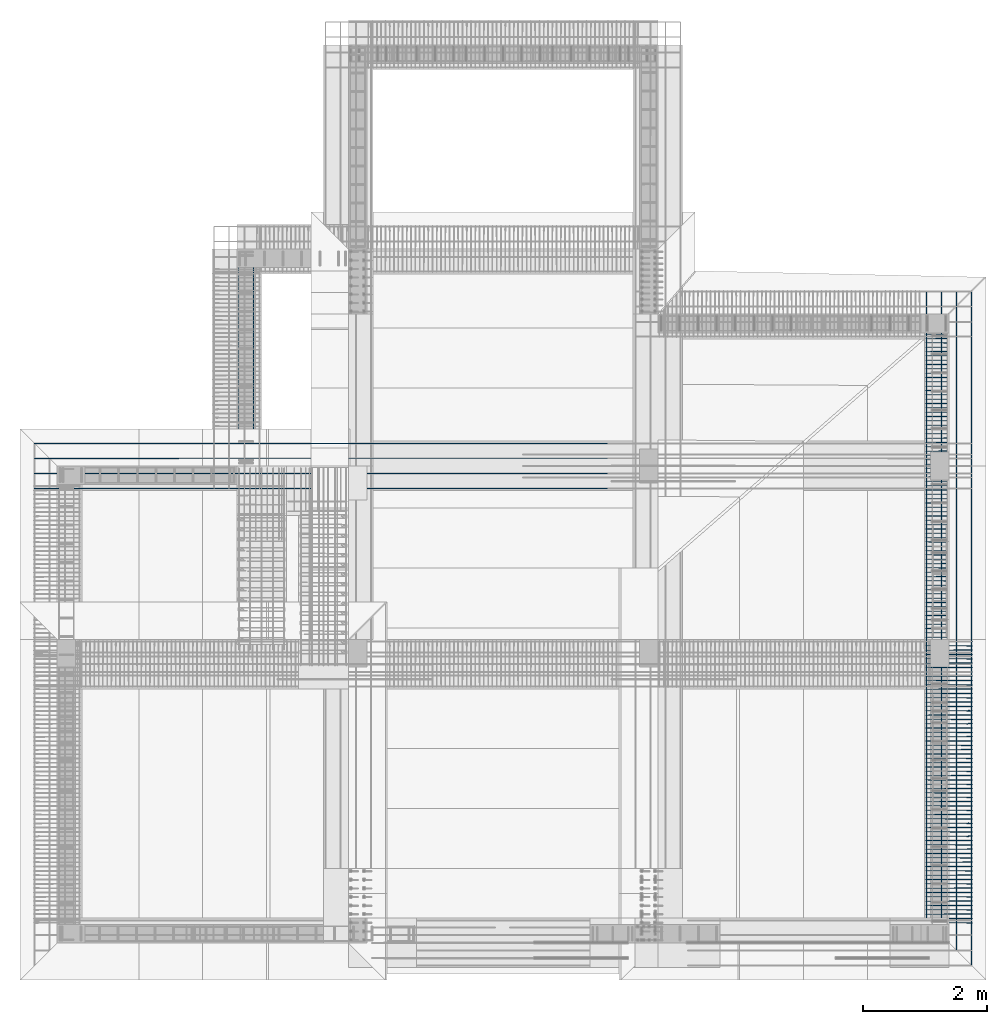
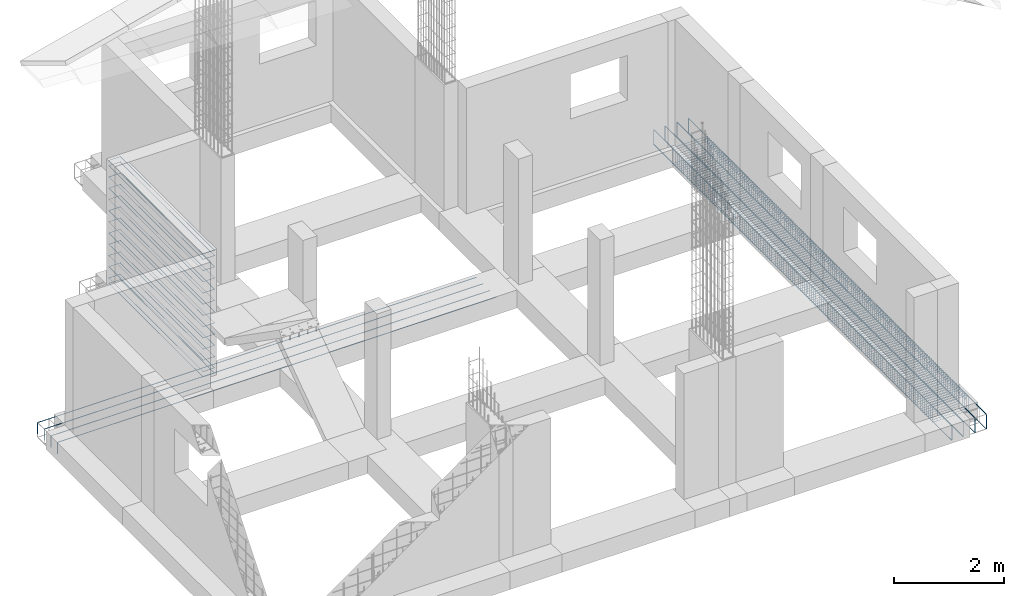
# One storey, part 9 of 15: 4 reinforcing bars.
"""IFC4 building model written with IfcOpenShell, lengths in metres."""

from ifc_helpers import new_model, entity, si_unit, origin_with_axes, place, context, project, spatial, source, transform, mapped, element, save


model = new_model("IFC4")

# Units and contexts
model_context = context("Model", 3, precision=1e-05, world=origin_with_axes())
ifc_project = project(units=[si_unit("LENGTHUNIT", "METRE"), si_unit("AREAUNIT", "SQUARE_METRE"), si_unit("VOLUMEUNIT", "CUBIC_METRE"), si_unit("MASSUNIT", "GRAM", prefix="KILO"), si_unit("TIMEUNIT", "SECOND"), si_unit("PLANEANGLEUNIT", "RADIAN"), si_unit("SOLIDANGLEUNIT", "STERADIAN"), si_unit("THERMODYNAMICTEMPERATUREUNIT", "DEGREE_CELSIUS")], contexts=[model_context])

# Site, building, storey
placement_1 = place(None, origin_with_axes())
site = spatial("IfcSite", under=ifc_project, at=placement_1, Name="Italia", CompositionType="ELEMENT")
building = spatial("IfcBuilding", under=site, at=placement_1, Name="Bifamiliare", CompositionType="ELEMENT")
storey = spatial("IfcBuildingStorey", under=building, at=placement_1, Name="Storey 0", CompositionType="ELEMENT", Elevation=0.0)

# Reinforcing bars
shared_shape_1 = source(origin_with_axes(), model_context, "Body", "AdvancedSweptSolid", [
    entity("IfcSweptDiskSolid", entity("IfcIndexedPolyCurve", entity("IfcCartesianPointList3D", [[4.28, 9.13, 0.03], [4.04, 9.13, 0.03], [4.03617, 9.13076, 0.03], [4.03293, 9.13293, 0.03], [4.03076, 9.13617, 0.03], [4.03, 9.14, 0.03], [4.03, 12.56, 0.03], [4.03076, 12.5638, 0.03], [4.03293, 12.5671, 0.03], [4.03617, 12.5692, 0.03], [4.04, 12.57, 0.03], [4.28, 12.57, 0.03]]), [entity("IfcLineIndex", [1, 2]), entity("IfcLineIndex", [2, 3]), entity("IfcLineIndex", [3, 4]), entity("IfcLineIndex", [4, 5]), entity("IfcLineIndex", [5, 6]), entity("IfcLineIndex", [6, 7]), entity("IfcLineIndex", [7, 8]), entity("IfcLineIndex", [8, 9]), entity("IfcLineIndex", [9, 10]), entity("IfcLineIndex", [10, 11]), entity("IfcLineIndex", [11, 12])], False), 0.005),
])
placement_2 = place(placement_1, origin_with_axes())
reinforcing_bar_1_placement = place(placement_2, origin_with_axes())
element("IfcReinforcingBar", 1, at=reinforcing_bar_1_placement, inside=storey, BarLength=3.93122, CrossSectionArea=7.854e-05, NominalDiameter=0.01, context=model_context, shape_type="MappedRepresentation", body=[
    mapped(shared_shape_1, transform((8.3, 21.7, 0.0), x_axis=(-1.0, 0.0, 0.0), y_axis=(0.0, -1.0, 0.0), z_axis=(0.0, 0.0, 1.0), scale=1.0)),
    mapped(shared_shape_1, transform((0.0, 0.0, 1.37), x_axis=(1.0, 0.0, 0.0), y_axis=(0.0, 1.0, 0.0), z_axis=(0.0, 0.0, 1.0), scale=1.0)),
    mapped(shared_shape_1, transform((0.0, 0.0, 2.37), x_axis=(1.0, 0.0, 0.0), y_axis=(0.0, 1.0, 0.0), z_axis=(0.0, 0.0, 1.0), scale=1.0)),
    mapped(shared_shape_1, transform((0.0, 0.0, 0.87), x_axis=(1.0, 0.0, 0.0), y_axis=(0.0, 1.0, 0.0), z_axis=(0.0, 0.0, 1.0), scale=1.0)),
    mapped(shared_shape_1, transform((0.0, 0.0, 0.62), x_axis=(1.0, 0.0, 0.0), y_axis=(0.0, 1.0, 0.0), z_axis=(0.0, 0.0, 1.0), scale=1.0)),
    mapped(shared_shape_1, transform((0.0, 0.0, 2.74), x_axis=(1.0, 0.0, 0.0), y_axis=(0.0, 1.0, 0.0), z_axis=(0.0, 0.0, 1.0), scale=1.0)),
    mapped(shared_shape_1, transform((0.0, 0.0, 1.12), x_axis=(1.0, 0.0, 0.0), y_axis=(0.0, 1.0, 0.0), z_axis=(0.0, 0.0, 1.0), scale=1.0)),
    mapped(shared_shape_1, transform((0.0, 0.0, 2.62), x_axis=(1.0, 0.0, 0.0), y_axis=(0.0, 1.0, 0.0), z_axis=(0.0, 0.0, 1.0), scale=1.0)),
    mapped(shared_shape_1, transform((0.0, 0.0, 1.62), x_axis=(1.0, 0.0, 0.0), y_axis=(0.0, 1.0, 0.0), z_axis=(0.0, 0.0, 1.0), scale=1.0)),
    mapped(shared_shape_1, transform((0.0, 0.0, 0.12), x_axis=(1.0, 0.0, 0.0), y_axis=(0.0, 1.0, 0.0), z_axis=(0.0, 0.0, 1.0), scale=1.0)),
    mapped(shared_shape_1, transform((0.0, 0.0, 0.0), x_axis=(1.0, 0.0, 0.0), y_axis=(0.0, 1.0, 0.0), z_axis=(0.0, 0.0, 1.0), scale=1.0)),
    mapped(shared_shape_1, transform((8.3, 21.7, 0.12), x_axis=(-1.0, 0.0, 0.0), y_axis=(0.0, -1.0, 0.0), z_axis=(0.0, 0.0, 1.0), scale=1.0)),
    mapped(shared_shape_1, transform((8.3, 21.7, 0.37), x_axis=(-1.0, 0.0, 0.0), y_axis=(0.0, -1.0, 0.0), z_axis=(0.0, 0.0, 1.0), scale=1.0)),
    mapped(shared_shape_1, transform((0.0, 0.0, 2.12), x_axis=(1.0, 0.0, 0.0), y_axis=(0.0, 1.0, 0.0), z_axis=(0.0, 0.0, 1.0), scale=1.0)),
    mapped(shared_shape_1, transform((0.0, 0.0, 0.37), x_axis=(1.0, 0.0, 0.0), y_axis=(0.0, 1.0, 0.0), z_axis=(0.0, 0.0, 1.0), scale=1.0)),
    mapped(shared_shape_1, transform((8.3, 21.7, 1.37), x_axis=(-1.0, 0.0, 0.0), y_axis=(0.0, -1.0, 0.0), z_axis=(0.0, 0.0, 1.0), scale=1.0)),
    mapped(shared_shape_1, transform((8.3, 21.7, 1.62), x_axis=(-1.0, 0.0, 0.0), y_axis=(0.0, -1.0, 0.0), z_axis=(0.0, 0.0, 1.0), scale=1.0)),
    mapped(shared_shape_1, transform((8.3, 21.7, 1.87), x_axis=(-1.0, 0.0, 0.0), y_axis=(0.0, -1.0, 0.0), z_axis=(0.0, 0.0, 1.0), scale=1.0)),
    mapped(shared_shape_1, transform((8.3, 21.7, 1.12), x_axis=(-1.0, 0.0, 0.0), y_axis=(0.0, -1.0, 0.0), z_axis=(0.0, 0.0, 1.0), scale=1.0)),
    mapped(shared_shape_1, transform((8.3, 21.7, 0.62), x_axis=(-1.0, 0.0, 0.0), y_axis=(0.0, -1.0, 0.0), z_axis=(0.0, 0.0, 1.0), scale=1.0)),
    mapped(shared_shape_1, transform((8.3, 21.7, 0.87), x_axis=(-1.0, 0.0, 0.0), y_axis=(0.0, -1.0, 0.0), z_axis=(0.0, 0.0, 1.0), scale=1.0)),
    mapped(shared_shape_1, transform((0.0, 0.0, 1.87), x_axis=(1.0, 0.0, 0.0), y_axis=(0.0, 1.0, 0.0), z_axis=(0.0, 0.0, 1.0), scale=1.0)),
    mapped(shared_shape_1, transform((8.3, 21.7, 2.37), x_axis=(-1.0, 0.0, 0.0), y_axis=(0.0, -1.0, 0.0), z_axis=(0.0, 0.0, 1.0), scale=1.0)),
    mapped(shared_shape_1, transform((8.3, 21.7, 2.74), x_axis=(-1.0, 0.0, 0.0), y_axis=(0.0, -1.0, 0.0), z_axis=(0.0, 0.0, 1.0), scale=1.0)),
    mapped(shared_shape_1, transform((8.3, 21.7, 2.62), x_axis=(-1.0, 0.0, 0.0), y_axis=(0.0, -1.0, 0.0), z_axis=(0.0, 0.0, 1.0), scale=1.0)),
    mapped(shared_shape_1, transform((8.3, 21.7, 2.12), x_axis=(-1.0, 0.0, 0.0), y_axis=(0.0, -1.0, 0.0), z_axis=(0.0, 0.0, 1.0), scale=1.0)),
])
shared_shape_2 = source(origin_with_axes(), model_context, "Body", "AdvancedSweptSolid", [
    entity("IfcSweptDiskSolid", entity("IfcIndexedPolyCurve", entity("IfcCartesianPointList3D", [[0.735, 8.736, -0.286], [0.735, 8.736, -0.046], [0.735761, 8.736, -0.0421732], [0.737929, 8.736, -0.0389289], [0.741173, 8.736, -0.0367612], [0.745, 8.736, -0.036], [9.45918, 8.736, -0.036], [9.985, 8.736, -0.036]]), [entity("IfcLineIndex", [1, 2]), entity("IfcLineIndex", [2, 3]), entity("IfcLineIndex", [3, 4]), entity("IfcLineIndex", [4, 5]), entity("IfcLineIndex", [5, 6]), entity("IfcLineIndex", [6, 7]), entity("IfcLineIndex", [7, 8])], False), 0.008),
])
reinforcing_bar_2_placement = place(placement_2, origin_with_axes())
element("IfcReinforcingBar", 2, at=reinforcing_bar_2_placement, inside=storey, BarLength=9.49561, CrossSectionArea=0.00020106, NominalDiameter=0.016, context=model_context, shape_type="MappedRepresentation", body=[
    mapped(shared_shape_2, transform((0.0, 0.728, 0.0), x_axis=(1.0, 0.0, 0.0), y_axis=(0.0, 1.0, 0.0), z_axis=(0.0, 0.0, 1.0), scale=1.0)),
    mapped(shared_shape_2, transform((0.0, 0.0, 0.0), x_axis=(1.0, 0.0, 0.0), y_axis=(0.0, 1.0, 0.0), z_axis=(0.0, 0.0, 1.0), scale=1.0)),
    mapped(shared_shape_2, transform((0.0, 0.488, 0.0), x_axis=(1.0, 0.0, 0.0), y_axis=(0.0, 1.0, 0.0), z_axis=(0.0, 0.0, 1.0), scale=1.0)),
    mapped(shared_shape_2, transform((0.0, 0.24, 0.0), x_axis=(1.0, 0.0, 0.0), y_axis=(0.0, 1.0, 0.0), z_axis=(0.0, 0.0, 1.0), scale=1.0)),
])
shared_shape_3 = source(origin_with_axes(), model_context, "Body", "AdvancedSweptSolid", [
    entity("IfcSweptDiskSolid", entity("IfcIndexedPolyCurve", entity("IfcCartesianPointList3D", [[15.8053, 1.728, -0.115711], [15.8731, 1.72765, -0.0479289], [15.876, 1.72763, -0.0408578], [15.876, 1.7276, -0.034], [15.8752, 1.72759, -0.0301732], [15.8731, 1.72757, -0.0269289], [15.8698, 1.72756, -0.0247612], [15.866, 1.72755, -0.024], [15.134, 1.72491, -0.024], [15.1302, 1.72489, -0.0247612], [15.1269, 1.72488, -0.0269289], [15.1248, 1.72487, -0.0301732], [15.124, 1.72485, -0.034], [15.124, 1.72365, -0.366], [15.1248, 1.72364, -0.369827], [15.1269, 1.72363, -0.373071], [15.1302, 1.72361, -0.375239], [15.134, 1.7236, -0.376], [15.866, 1.72096, -0.376], [15.8698, 1.72095, -0.375239], [15.8731, 1.72093, -0.373071], [15.8752, 1.72092, -0.369827], [15.876, 1.7209, -0.366], [15.876, 1.71971, -0.034], [15.8752, 1.71969, -0.0301732], [15.8731, 1.71968, -0.0269289], [15.8698, 1.71967, -0.0247612], [15.866, 1.71965, -0.024], [15.8591, 1.71963, -0.024], [15.8521, 1.7196, -0.0269289], [15.7843, 1.71925, -0.0947113]]), [entity("IfcLineIndex", [1, 2]), entity("IfcLineIndex", [2, 3]), entity("IfcLineIndex", [3, 4]), entity("IfcLineIndex", [4, 5]), entity("IfcLineIndex", [5, 6]), entity("IfcLineIndex", [6, 7]), entity("IfcLineIndex", [7, 8]), entity("IfcLineIndex", [8, 9]), entity("IfcLineIndex", [9, 10]), entity("IfcLineIndex", [10, 11]), entity("IfcLineIndex", [11, 12]), entity("IfcLineIndex", [12, 13]), entity("IfcLineIndex", [13, 14]), entity("IfcLineIndex", [14, 15]), entity("IfcLineIndex", [15, 16]), entity("IfcLineIndex", [16, 17]), entity("IfcLineIndex", [17, 18]), entity("IfcLineIndex", [18, 19]), entity("IfcLineIndex", [19, 20]), entity("IfcLineIndex", [20, 21]), entity("IfcLineIndex", [21, 22]), entity("IfcLineIndex", [22, 23]), entity("IfcLineIndex", [23, 24]), entity("IfcLineIndex", [24, 25]), entity("IfcLineIndex", [25, 26]), entity("IfcLineIndex", [26, 27]), entity("IfcLineIndex", [27, 28]), entity("IfcLineIndex", [28, 29]), entity("IfcLineIndex", [29, 30]), entity("IfcLineIndex", [30, 31])], False), 0.004),
])
reinforcing_bar_3_placement = place(placement_2, origin_with_axes())
element("IfcReinforcingBar", 3, at=reinforcing_bar_3_placement, inside=storey, BarLength=2.42679, CrossSectionArea=5.0265e-05, NominalDiameter=0.008, context=model_context, shape_type="MappedRepresentation", body=[
    mapped(shared_shape_3, transform((0.0, 9.50201, 0.0), x_axis=(1.0, 0.0, 0.0), y_axis=(0.0, 1.0, 0.0), z_axis=(0.0, 0.0, 1.0), scale=1.0)),
    mapped(shared_shape_3, transform((0.0, 6.28809, 0.0), x_axis=(1.0, 0.0, 0.0), y_axis=(0.0, 1.0, 0.0), z_axis=(0.0, 0.0, 1.0), scale=1.0)),
    mapped(shared_shape_3, transform((0.0, 6.35795, 0.0), x_axis=(1.0, 0.0, 0.0), y_axis=(0.0, 1.0, 0.0), z_axis=(0.0, 0.0, 1.0), scale=1.0)),
    mapped(shared_shape_3, transform((0.0, 6.42782, 0.0), x_axis=(1.0, 0.0, 0.0), y_axis=(0.0, 1.0, 0.0), z_axis=(0.0, 0.0, 1.0), scale=1.0)),
    mapped(shared_shape_3, transform((-1.90735e-05, 6.21841, 0.0), x_axis=(1.0, -1.20276e-05, 0.0), y_axis=(1.20024e-05, 1.0, 0.0), z_axis=(0.0, 0.0, 1.0), scale=1.0)),
    mapped(shared_shape_3, transform((-1.90735e-05, 6.00881, 0.0), x_axis=(1.0, -1.20276e-05, 0.0), y_axis=(1.20024e-05, 1.0, 0.0), z_axis=(0.0, 0.0, 1.0), scale=1.0)),
    mapped(shared_shape_3, transform((-1.90735e-05, 6.07867, 0.0), x_axis=(1.0, -1.20276e-05, 0.0), y_axis=(1.20024e-05, 1.0, 0.0), z_axis=(0.0, 0.0, 1.0), scale=1.0)),
    mapped(shared_shape_3, transform((-1.90735e-05, 6.14854, 0.0), x_axis=(1.0, -1.20276e-05, 0.0), y_axis=(1.20024e-05, 1.0, 0.0), z_axis=(0.0, 0.0, 1.0), scale=1.0)),
    mapped(shared_shape_3, transform((0.0, 6.49769, 0.0), x_axis=(1.0, 0.0, 0.0), y_axis=(0.0, 1.0, 0.0), z_axis=(0.0, 0.0, 1.0), scale=1.0)),
    mapped(shared_shape_3, transform((0.0, 6.84703, 0.0), x_axis=(1.0, 0.0, 0.0), y_axis=(0.0, 1.0, 0.0), z_axis=(0.0, 0.0, 1.0), scale=1.0)),
    mapped(shared_shape_3, transform((0.0, 6.91689, 0.0), x_axis=(1.0, 0.0, 0.0), y_axis=(0.0, 1.0, 0.0), z_axis=(0.0, 0.0, 1.0), scale=1.0)),
    mapped(shared_shape_3, transform((0.0, 6.98676, 0.0), x_axis=(1.0, 0.0, 0.0), y_axis=(0.0, 1.0, 0.0), z_axis=(0.0, 0.0, 1.0), scale=1.0)),
    mapped(shared_shape_3, transform((0.0, 6.77716, 0.0), x_axis=(1.0, 0.0, 0.0), y_axis=(0.0, 1.0, 0.0), z_axis=(0.0, 0.0, 1.0), scale=1.0)),
    mapped(shared_shape_3, transform((0.0, 6.56756, 0.0), x_axis=(1.0, 0.0, 0.0), y_axis=(0.0, 1.0, 0.0), z_axis=(0.0, 0.0, 1.0), scale=1.0)),
    mapped(shared_shape_3, transform((0.0, 6.63742, 0.0), x_axis=(1.0, 0.0, 0.0), y_axis=(0.0, 1.0, 0.0), z_axis=(0.0, 0.0, 1.0), scale=1.0)),
    mapped(shared_shape_3, transform((0.0, 6.70729, 0.0), x_axis=(1.0, 0.0, 0.0), y_axis=(0.0, 1.0, 0.0), z_axis=(0.0, 0.0, 1.0), scale=1.0)),
    mapped(shared_shape_3, transform((0.0, 7.05663, 0.0), x_axis=(1.0, 0.0, 0.0), y_axis=(0.0, 1.0, 0.0), z_axis=(0.0, 0.0, 1.0), scale=1.0)),
    mapped(shared_shape_3, transform((-1.90735e-05, 5.03066, 0.0), x_axis=(1.0, -1.20276e-05, 0.0), y_axis=(1.20024e-05, 1.0, 0.0), z_axis=(0.0, 0.0, 1.0), scale=1.0)),
    mapped(shared_shape_3, transform((-1.90735e-05, 5.10053, 0.0), x_axis=(1.0, -1.20276e-05, 0.0), y_axis=(1.20024e-05, 1.0, 0.0), z_axis=(0.0, 0.0, 1.0), scale=1.0)),
    mapped(shared_shape_3, transform((-1.90735e-05, 5.17039, 0.0), x_axis=(1.0, -1.20276e-05, 0.0), y_axis=(1.20024e-05, 1.0, 0.0), z_axis=(0.0, 0.0, 1.0), scale=1.0)),
    mapped(shared_shape_3, transform((-1.90735e-05, 4.96079, 0.0), x_axis=(1.0, -1.20276e-05, 0.0), y_axis=(1.20024e-05, 1.0, 0.0), z_axis=(0.0, 0.0, 1.0), scale=1.0)),
    mapped(shared_shape_3, transform((-1.90735e-05, 5.93894, 0.0), x_axis=(1.0, -1.20276e-05, 0.0), y_axis=(1.20024e-05, 1.0, 0.0), z_axis=(0.0, 0.0, 1.0), scale=1.0)),
    mapped(shared_shape_3, transform((-1.90735e-05, 4.82106, 0.0), x_axis=(1.0, -1.20276e-05, 0.0), y_axis=(1.20024e-05, 1.0, 0.0), z_axis=(0.0, 0.0, 1.0), scale=1.0)),
    mapped(shared_shape_3, transform((-1.90735e-05, 4.89092, 0.0), x_axis=(1.0, -1.20276e-05, 0.0), y_axis=(1.20024e-05, 1.0, 0.0), z_axis=(0.0, 0.0, 1.0), scale=1.0)),
    mapped(shared_shape_3, transform((-1.90735e-05, 5.24026, 0.0), x_axis=(1.0, -1.20276e-05, 0.0), y_axis=(1.20024e-05, 1.0, 0.0), z_axis=(0.0, 0.0, 1.0), scale=1.0)),
    mapped(shared_shape_3, transform((-1.90735e-05, 5.5896, 0.0), x_axis=(1.0, -1.20276e-05, 0.0), y_axis=(1.20024e-05, 1.0, 0.0), z_axis=(0.0, 0.0, 1.0), scale=1.0)),
    mapped(shared_shape_3, transform((-1.90735e-05, 5.65947, 0.0), x_axis=(1.0, -1.20276e-05, 0.0), y_axis=(1.20024e-05, 1.0, 0.0), z_axis=(0.0, 0.0, 1.0), scale=1.0)),
    mapped(shared_shape_3, transform((-1.90735e-05, 5.72934, 0.0), x_axis=(1.0, -1.20276e-05, 0.0), y_axis=(1.20024e-05, 1.0, 0.0), z_axis=(0.0, 0.0, 1.0), scale=1.0)),
    mapped(shared_shape_3, transform((-1.90735e-05, 5.51973, 0.0), x_axis=(1.0, -1.20276e-05, 0.0), y_axis=(1.20024e-05, 1.0, 0.0), z_axis=(0.0, 0.0, 1.0), scale=1.0)),
    mapped(shared_shape_3, transform((-1.90735e-05, 5.31013, 0.0), x_axis=(1.0, -1.20276e-05, 0.0), y_axis=(1.20024e-05, 1.0, 0.0), z_axis=(0.0, 0.0, 1.0), scale=1.0)),
    mapped(shared_shape_3, transform((-1.90735e-05, 5.38, 0.0), x_axis=(1.0, -1.20276e-05, 0.0), y_axis=(1.20024e-05, 1.0, 0.0), z_axis=(0.0, 0.0, 1.0), scale=1.0)),
    mapped(shared_shape_3, transform((-1.90735e-05, 5.44987, 0.0), x_axis=(1.0, -1.20276e-05, 0.0), y_axis=(1.20024e-05, 1.0, 0.0), z_axis=(0.0, 0.0, 1.0), scale=1.0)),
    mapped(shared_shape_3, transform((-1.90735e-05, 5.7992, 0.0), x_axis=(1.0, -1.20276e-05, 0.0), y_axis=(1.20024e-05, 1.0, 0.0), z_axis=(0.0, 0.0, 1.0), scale=1.0)),
    mapped(shared_shape_3, transform((0.0, 8.52385, 0.0), x_axis=(1.0, 0.0, 0.0), y_axis=(0.0, 1.0, 0.0), z_axis=(0.0, 0.0, 1.0), scale=1.0)),
    mapped(shared_shape_3, transform((0.0, 8.59372, 0.0), x_axis=(1.0, 0.0, 0.0), y_axis=(0.0, 1.0, 0.0), z_axis=(0.0, 0.0, 1.0), scale=1.0)),
    mapped(shared_shape_3, transform((0.0, 8.66359, 0.0), x_axis=(1.0, 0.0, 0.0), y_axis=(0.0, 1.0, 0.0), z_axis=(0.0, 0.0, 1.0), scale=1.0)),
    mapped(shared_shape_3, transform((0.0, 8.45399, 0.0), x_axis=(1.0, 0.0, 0.0), y_axis=(0.0, 1.0, 0.0), z_axis=(0.0, 0.0, 1.0), scale=1.0)),
    mapped(shared_shape_3, transform((-1.90735e-05, 5.86907, 0.0), x_axis=(1.0, -1.20276e-05, 0.0), y_axis=(1.20024e-05, 1.0, 0.0), z_axis=(0.0, 0.0, 1.0), scale=1.0)),
    mapped(shared_shape_3, transform((0.0, 7.1265, 0.0), x_axis=(1.0, 0.0, 0.0), y_axis=(0.0, 1.0, 0.0), z_axis=(0.0, 0.0, 1.0), scale=1.0)),
    mapped(shared_shape_3, transform((0.0, 8.38412, 0.0), x_axis=(1.0, 0.0, 0.0), y_axis=(0.0, 1.0, 0.0), z_axis=(0.0, 0.0, 1.0), scale=1.0)),
    mapped(shared_shape_3, transform((0.0, 8.73346, 0.0), x_axis=(1.0, 0.0, 0.0), y_axis=(0.0, 1.0, 0.0), z_axis=(0.0, 0.0, 1.0), scale=1.0)),
    mapped(shared_shape_3, transform((0.0, 9.0828, 0.0), x_axis=(1.0, 0.0, 0.0), y_axis=(0.0, 1.0, 0.0), z_axis=(0.0, 0.0, 1.0), scale=1.0)),
    mapped(shared_shape_3, transform((0.0, 9.15267, 0.0), x_axis=(1.0, 0.0, 0.0), y_axis=(0.0, 1.0, 0.0), z_axis=(0.0, 0.0, 1.0), scale=1.0)),
    mapped(shared_shape_3, transform((0.0, 9.22253, 0.0), x_axis=(1.0, 0.0, 0.0), y_axis=(0.0, 1.0, 0.0), z_axis=(0.0, 0.0, 1.0), scale=1.0)),
    mapped(shared_shape_3, transform((0.0, 9.01293, 0.0), x_axis=(1.0, 0.0, 0.0), y_axis=(0.0, 1.0, 0.0), z_axis=(0.0, 0.0, 1.0), scale=1.0)),
    mapped(shared_shape_3, transform((0.0, 8.80333, 0.0), x_axis=(1.0, 0.0, 0.0), y_axis=(0.0, 1.0, 0.0), z_axis=(0.0, 0.0, 1.0), scale=1.0)),
    mapped(shared_shape_3, transform((0.0, 8.87319, 0.0), x_axis=(1.0, 0.0, 0.0), y_axis=(0.0, 1.0, 0.0), z_axis=(0.0, 0.0, 1.0), scale=1.0)),
    mapped(shared_shape_3, transform((0.0, 8.94306, 0.0), x_axis=(1.0, 0.0, 0.0), y_axis=(0.0, 1.0, 0.0), z_axis=(0.0, 0.0, 1.0), scale=1.0)),
    mapped(shared_shape_3, transform((0.0, 9.2924, 0.0), x_axis=(1.0, 0.0, 0.0), y_axis=(0.0, 1.0, 0.0), z_axis=(0.0, 0.0, 1.0), scale=1.0)),
    mapped(shared_shape_3, transform((0.0, 7.26623, 0.0), x_axis=(1.0, 0.0, 0.0), y_axis=(0.0, 1.0, 0.0), z_axis=(0.0, 0.0, 1.0), scale=1.0)),
    mapped(shared_shape_3, transform((0.0, 7.3361, 0.0), x_axis=(1.0, 0.0, 0.0), y_axis=(0.0, 1.0, 0.0), z_axis=(0.0, 0.0, 1.0), scale=1.0)),
    mapped(shared_shape_3, transform((0.0, 7.40597, 0.0), x_axis=(1.0, 0.0, 0.0), y_axis=(0.0, 1.0, 0.0), z_axis=(0.0, 0.0, 1.0), scale=1.0)),
    mapped(shared_shape_3, transform((0.0, 7.19636, 0.0), x_axis=(1.0, 0.0, 0.0), y_axis=(0.0, 1.0, 0.0), z_axis=(0.0, 0.0, 1.0), scale=1.0)),
    mapped(shared_shape_3, transform((0.0, 9.36227, 0.0), x_axis=(1.0, 0.0, 0.0), y_axis=(0.0, 1.0, 0.0), z_axis=(0.0, 0.0, 1.0), scale=1.0)),
    mapped(shared_shape_3, transform((0.0, 9.43214, 0.0), x_axis=(1.0, 0.0, 0.0), y_axis=(0.0, 1.0, 0.0), z_axis=(0.0, 0.0, 1.0), scale=1.0)),
    mapped(shared_shape_3, transform((0.0, 8.31425, 0.0), x_axis=(1.0, 0.0, 0.0), y_axis=(0.0, 1.0, 0.0), z_axis=(0.0, 0.0, 1.0), scale=1.0)),
    mapped(shared_shape_3, transform((0.0, 7.47583, 0.0), x_axis=(1.0, 0.0, 0.0), y_axis=(0.0, 1.0, 0.0), z_axis=(0.0, 0.0, 1.0), scale=1.0)),
    mapped(shared_shape_3, transform((0.0, 7.82517, 0.0), x_axis=(1.0, 0.0, 0.0), y_axis=(0.0, 1.0, 0.0), z_axis=(0.0, 0.0, 1.0), scale=1.0)),
    mapped(shared_shape_3, transform((0.0, 7.89504, 0.0), x_axis=(1.0, 0.0, 0.0), y_axis=(0.0, 1.0, 0.0), z_axis=(0.0, 0.0, 1.0), scale=1.0)),
    mapped(shared_shape_3, transform((0.0, 7.96491, 0.0), x_axis=(1.0, 0.0, 0.0), y_axis=(0.0, 1.0, 0.0), z_axis=(0.0, 0.0, 1.0), scale=1.0)),
    mapped(shared_shape_3, transform((0.0, 7.75531, 0.0), x_axis=(1.0, 0.0, 0.0), y_axis=(0.0, 1.0, 0.0), z_axis=(0.0, 0.0, 1.0), scale=1.0)),
    mapped(shared_shape_3, transform((0.0, 7.5457, 0.0), x_axis=(1.0, 0.0, 0.0), y_axis=(0.0, 1.0, 0.0), z_axis=(0.0, 0.0, 1.0), scale=1.0)),
    mapped(shared_shape_3, transform((0.0, 7.61557, 0.0), x_axis=(1.0, 0.0, 0.0), y_axis=(0.0, 1.0, 0.0), z_axis=(0.0, 0.0, 1.0), scale=1.0)),
    mapped(shared_shape_3, transform((0.0, 7.68544, 0.0), x_axis=(1.0, 0.0, 0.0), y_axis=(0.0, 1.0, 0.0), z_axis=(0.0, 0.0, 1.0), scale=1.0)),
    mapped(shared_shape_3, transform((0.0, 8.03478, 0.0), x_axis=(1.0, 0.0, 0.0), y_axis=(0.0, 1.0, 0.0), z_axis=(0.0, 0.0, 1.0), scale=1.0)),
    mapped(shared_shape_3, transform((0.0, 1.25771, 0.0), x_axis=(1.0, 0.0, 0.0), y_axis=(0.0, 1.0, 0.0), z_axis=(0.0, 0.0, 1.0), scale=1.0)),
    mapped(shared_shape_3, transform((0.0, 1.32758, 0.0), x_axis=(1.0, 0.0, 0.0), y_axis=(0.0, 1.0, 0.0), z_axis=(0.0, 0.0, 1.0), scale=1.0)),
    mapped(shared_shape_3, transform((0.0, 1.39745, 0.0), x_axis=(1.0, 0.0, 0.0), y_axis=(0.0, 1.0, 0.0), z_axis=(0.0, 0.0, 1.0), scale=1.0)),
    mapped(shared_shape_3, transform((-1.90735e-05, 4.75119, 0.0), x_axis=(1.0, -1.20276e-05, 0.0), y_axis=(1.20024e-05, 1.0, 0.0), z_axis=(0.0, 0.0, 1.0), scale=1.0)),
    mapped(shared_shape_3, transform((0.0, 8.10464, 0.0), x_axis=(1.0, 0.0, 0.0), y_axis=(0.0, 1.0, 0.0), z_axis=(0.0, 0.0, 1.0), scale=1.0)),
    mapped(shared_shape_3, transform((0.0, 8.17451, 0.0), x_axis=(1.0, 0.0, 0.0), y_axis=(0.0, 1.0, 0.0), z_axis=(0.0, 0.0, 1.0), scale=1.0)),
    mapped(shared_shape_3, transform((0.0, 8.24438, 0.0), x_axis=(1.0, 0.0, 0.0), y_axis=(0.0, 1.0, 0.0), z_axis=(0.0, 0.0, 1.0), scale=1.0)),
    mapped(shared_shape_3, transform((0.0, 1.46732, 0.0), x_axis=(1.0, 0.0, 0.0), y_axis=(0.0, 1.0, 0.0), z_axis=(0.0, 0.0, 1.0), scale=1.0)),
    mapped(shared_shape_3, transform((0.0, 1.81665, 0.0), x_axis=(1.0, 0.0, 0.0), y_axis=(0.0, 1.0, 0.0), z_axis=(0.0, 0.0, 1.0), scale=1.0)),
    mapped(shared_shape_3, transform((0.0, 1.88652, 0.0), x_axis=(1.0, 0.0, 0.0), y_axis=(0.0, 1.0, 0.0), z_axis=(0.0, 0.0, 1.0), scale=1.0)),
    mapped(shared_shape_3, transform((0.0, 1.95639, 0.0), x_axis=(1.0, 0.0, 0.0), y_axis=(0.0, 1.0, 0.0), z_axis=(0.0, 0.0, 1.0), scale=1.0)),
    mapped(shared_shape_3, transform((0.0, 1.74679, 0.0), x_axis=(1.0, 0.0, 0.0), y_axis=(0.0, 1.0, 0.0), z_axis=(0.0, 0.0, 1.0), scale=1.0)),
    mapped(shared_shape_3, transform((0.0, 1.53718, 0.0), x_axis=(1.0, 0.0, 0.0), y_axis=(0.0, 1.0, 0.0), z_axis=(0.0, 0.0, 1.0), scale=1.0)),
    mapped(shared_shape_3, transform((0.0, 1.60705, 0.0), x_axis=(1.0, 0.0, 0.0), y_axis=(0.0, 1.0, 0.0), z_axis=(0.0, 0.0, 1.0), scale=1.0)),
    mapped(shared_shape_3, transform((0.0, 1.67692, 0.0), x_axis=(1.0, 0.0, 0.0), y_axis=(0.0, 1.0, 0.0), z_axis=(0.0, 0.0, 1.0), scale=1.0)),
    mapped(shared_shape_3, transform((0.0, 2.02626, 0.0), x_axis=(1.0, 0.0, 0.0), y_axis=(0.0, 1.0, 0.0), z_axis=(0.0, 0.0, 1.0), scale=1.0)),
    mapped(shared_shape_3, transform((0.0, 1.18785, 0.0), x_axis=(1.0, 0.0, 0.0), y_axis=(0.0, 1.0, 0.0), z_axis=(0.0, 0.0, 1.0), scale=1.0)),
    mapped(shared_shape_3, transform((0.0, 0.0698678, 0.0), x_axis=(1.0, 0.0, 0.0), y_axis=(0.0, 1.0, 0.0), z_axis=(0.0, 0.0, 1.0), scale=1.0)),
    mapped(shared_shape_3, transform((0.0, 0.139735, 0.0), x_axis=(1.0, 0.0, 0.0), y_axis=(0.0, 1.0, 0.0), z_axis=(0.0, 0.0, 1.0), scale=1.0)),
    mapped(shared_shape_3, transform((-1.90735e-05, 2.30582, 0.0), x_axis=(1.0, -1.20276e-05, 0.0), y_axis=(1.20024e-05, 1.0, 0.0), z_axis=(0.0, 0.0, 1.0), scale=1.0)),
    mapped(shared_shape_3, transform((0.0, 2.09612, 0.0), x_axis=(1.0, 0.0, 0.0), y_axis=(0.0, 1.0, 0.0), z_axis=(0.0, 0.0, 1.0), scale=1.0)),
    mapped(shared_shape_3, transform((0.0, 2.16599, 0.0), x_axis=(1.0, 0.0, 0.0), y_axis=(0.0, 1.0, 0.0), z_axis=(0.0, 0.0, 1.0), scale=1.0)),
    mapped(shared_shape_3, transform((0.0, 2.23586, 0.0), x_axis=(1.0, 0.0, 0.0), y_axis=(0.0, 1.0, 0.0), z_axis=(0.0, 0.0, 1.0), scale=1.0)),
    mapped(shared_shape_3, transform((-1.90735e-05, 0.209794, 0.0), x_axis=(1.0, -1.20276e-05, 0.0), y_axis=(1.20024e-05, 1.0, 0.0), z_axis=(0.0, 0.0, 1.0), scale=1.0)),
    mapped(shared_shape_3, transform((-1.90735e-05, 0.559132, 0.0), x_axis=(1.0, -1.20276e-05, 0.0), y_axis=(1.20024e-05, 1.0, 0.0), z_axis=(0.0, 0.0, 1.0), scale=1.0)),
    mapped(shared_shape_3, transform((0.0, 0.628904, 0.0), x_axis=(1.0, 0.0, 0.0), y_axis=(0.0, 1.0, 0.0), z_axis=(0.0, 0.0, 1.0), scale=1.0)),
    mapped(shared_shape_3, transform((0.0, 0.698772, 0.0), x_axis=(1.0, 0.0, 0.0), y_axis=(0.0, 1.0, 0.0), z_axis=(0.0, 0.0, 1.0), scale=1.0)),
    mapped(shared_shape_3, transform((-1.90735e-05, 0.489264, 0.0), x_axis=(1.0, -1.20276e-05, 0.0), y_axis=(1.20024e-05, 1.0, 0.0), z_axis=(0.0, 0.0, 1.0), scale=1.0)),
    mapped(shared_shape_3, transform((0.0, 0.279471, 0.0), x_axis=(1.0, 0.0, 0.0), y_axis=(0.0, 1.0, 0.0), z_axis=(0.0, 0.0, 1.0), scale=1.0)),
    mapped(shared_shape_3, transform((-1.90735e-05, 0.349529, 0.0), x_axis=(1.0, -1.20276e-05, 0.0), y_axis=(1.20024e-05, 1.0, 0.0), z_axis=(0.0, 0.0, 1.0), scale=1.0)),
    mapped(shared_shape_3, transform((0.0, 0.419206, 0.0), x_axis=(1.0, 0.0, 0.0), y_axis=(0.0, 1.0, 0.0), z_axis=(0.0, 0.0, 1.0), scale=1.0)),
    mapped(shared_shape_3, transform((0.0, 0.76864, 0.0), x_axis=(1.0, 0.0, 0.0), y_axis=(0.0, 1.0, 0.0), z_axis=(0.0, 0.0, 1.0), scale=1.0)),
    mapped(shared_shape_3, transform((0.0, 1.11798, 0.0), x_axis=(1.0, 0.0, 0.0), y_axis=(0.0, 1.0, 0.0), z_axis=(0.0, 0.0, 1.0), scale=1.0)),
    mapped(shared_shape_3, transform((-1.90735e-05, 2.37569, 0.0), x_axis=(1.0, -1.20276e-05, 0.0), y_axis=(1.20024e-05, 1.0, 0.0), z_axis=(0.0, 0.0, 1.0), scale=1.0)),
    mapped(shared_shape_3, transform((-1.90735e-05, 3.63331, 0.0), x_axis=(1.0, -1.20276e-05, 0.0), y_axis=(1.20024e-05, 1.0, 0.0), z_axis=(0.0, 0.0, 1.0), scale=1.0)),
    mapped(shared_shape_3, transform((0.0, 1.04811, 0.0), x_axis=(1.0, 0.0, 0.0), y_axis=(0.0, 1.0, 0.0), z_axis=(0.0, 0.0, 1.0), scale=1.0)),
    mapped(shared_shape_3, transform((0.0, 0.838507, 0.0), x_axis=(1.0, 0.0, 0.0), y_axis=(0.0, 1.0, 0.0), z_axis=(0.0, 0.0, 1.0), scale=1.0)),
    mapped(shared_shape_3, transform((0.0, 0.908375, 0.0), x_axis=(1.0, 0.0, 0.0), y_axis=(0.0, 1.0, 0.0), z_axis=(0.0, 0.0, 1.0), scale=1.0)),
    mapped(shared_shape_3, transform((0.0, 0.978243, 0.0), x_axis=(1.0, 0.0, 0.0), y_axis=(0.0, 1.0, 0.0), z_axis=(0.0, 0.0, 1.0), scale=1.0)),
    mapped(shared_shape_3, transform((-1.90735e-05, 3.70317, 0.0), x_axis=(1.0, -1.20276e-05, 0.0), y_axis=(1.20024e-05, 1.0, 0.0), z_axis=(0.0, 0.0, 1.0), scale=1.0)),
    mapped(shared_shape_3, transform((-1.90735e-05, 4.05251, 0.0), x_axis=(1.0, -1.20276e-05, 0.0), y_axis=(1.20024e-05, 1.0, 0.0), z_axis=(0.0, 0.0, 1.0), scale=1.0)),
    mapped(shared_shape_3, transform((-1.90735e-05, 4.12238, 0.0), x_axis=(1.0, -1.20276e-05, 0.0), y_axis=(1.20024e-05, 1.0, 0.0), z_axis=(0.0, 0.0, 1.0), scale=1.0)),
    mapped(shared_shape_3, transform((-1.90735e-05, 4.19225, 0.0), x_axis=(1.0, -1.20276e-05, 0.0), y_axis=(1.20024e-05, 1.0, 0.0), z_axis=(0.0, 0.0, 1.0), scale=1.0)),
    mapped(shared_shape_3, transform((-1.90735e-05, 3.98265, 0.0), x_axis=(1.0, -1.20276e-05, 0.0), y_axis=(1.20024e-05, 1.0, 0.0), z_axis=(0.0, 0.0, 1.0), scale=1.0)),
    mapped(shared_shape_3, transform((-1.90735e-05, 3.77304, 0.0), x_axis=(1.0, -1.20276e-05, 0.0), y_axis=(1.20024e-05, 1.0, 0.0), z_axis=(0.0, 0.0, 1.0), scale=1.0)),
    mapped(shared_shape_3, transform((-1.90735e-05, 3.84291, 0.0), x_axis=(1.0, -1.20276e-05, 0.0), y_axis=(1.20024e-05, 1.0, 0.0), z_axis=(0.0, 0.0, 1.0), scale=1.0)),
    mapped(shared_shape_3, transform((-1.90735e-05, 3.91278, 0.0), x_axis=(1.0, -1.20276e-05, 0.0), y_axis=(1.20024e-05, 1.0, 0.0), z_axis=(0.0, 0.0, 1.0), scale=1.0)),
    mapped(shared_shape_3, transform((-1.90735e-05, 4.26212, 0.0), x_axis=(1.0, -1.20276e-05, 0.0), y_axis=(1.20024e-05, 1.0, 0.0), z_axis=(0.0, 0.0, 1.0), scale=1.0)),
    mapped(shared_shape_3, transform((-1.90735e-05, 4.61145, 0.0), x_axis=(1.0, -1.20276e-05, 0.0), y_axis=(1.20024e-05, 1.0, 0.0), z_axis=(0.0, 0.0, 1.0), scale=1.0)),
    mapped(shared_shape_3, transform((-1.90735e-05, 4.68132, 0.0), x_axis=(1.0, -1.20276e-05, 0.0), y_axis=(1.20024e-05, 1.0, 0.0), z_axis=(0.0, 0.0, 1.0), scale=1.0)),
    mapped(shared_shape_3, transform((-1.90735e-05, 3.56344, 0.0), x_axis=(1.0, -1.20276e-05, 0.0), y_axis=(1.20024e-05, 1.0, 0.0), z_axis=(0.0, 0.0, 1.0), scale=1.0)),
    mapped(shared_shape_3, transform((-1.90735e-05, 4.54159, 0.0), x_axis=(1.0, -1.20276e-05, 0.0), y_axis=(1.20024e-05, 1.0, 0.0), z_axis=(0.0, 0.0, 1.0), scale=1.0)),
    mapped(shared_shape_3, transform((-1.90735e-05, 4.33198, 0.0), x_axis=(1.0, -1.20276e-05, 0.0), y_axis=(1.20024e-05, 1.0, 0.0), z_axis=(0.0, 0.0, 1.0), scale=1.0)),
    mapped(shared_shape_3, transform((-1.90735e-05, 4.40185, 0.0), x_axis=(1.0, -1.20276e-05, 0.0), y_axis=(1.20024e-05, 1.0, 0.0), z_axis=(0.0, 0.0, 1.0), scale=1.0)),
    mapped(shared_shape_3, transform((-1.90735e-05, 4.47172, 0.0), x_axis=(1.0, -1.20276e-05, 0.0), y_axis=(1.20024e-05, 1.0, 0.0), z_axis=(0.0, 0.0, 1.0), scale=1.0)),
    mapped(shared_shape_3, transform((-1.90735e-05, 2.44556, 0.0), x_axis=(1.0, -1.20276e-05, 0.0), y_axis=(1.20024e-05, 1.0, 0.0), z_axis=(0.0, 0.0, 1.0), scale=1.0)),
    mapped(shared_shape_3, transform((-1.90735e-05, 2.7949, 0.0), x_axis=(1.0, -1.20276e-05, 0.0), y_axis=(1.20024e-05, 1.0, 0.0), z_axis=(0.0, 0.0, 1.0), scale=1.0)),
    mapped(shared_shape_3, transform((-1.90735e-05, 2.86476, 0.0), x_axis=(1.0, -1.20276e-05, 0.0), y_axis=(1.20024e-05, 1.0, 0.0), z_axis=(0.0, 0.0, 1.0), scale=1.0)),
    mapped(shared_shape_3, transform((-1.90735e-05, 2.93463, 0.0), x_axis=(1.0, -1.20276e-05, 0.0), y_axis=(1.20024e-05, 1.0, 0.0), z_axis=(0.0, 0.0, 1.0), scale=1.0)),
    mapped(shared_shape_3, transform((-1.90735e-05, 2.72503, 0.0), x_axis=(1.0, -1.20276e-05, 0.0), y_axis=(1.20024e-05, 1.0, 0.0), z_axis=(0.0, 0.0, 1.0), scale=1.0)),
    mapped(shared_shape_3, transform((-1.90735e-05, 2.51543, 0.0), x_axis=(1.0, -1.20276e-05, 0.0), y_axis=(1.20024e-05, 1.0, 0.0), z_axis=(0.0, 0.0, 1.0), scale=1.0)),
    mapped(shared_shape_3, transform((-1.90735e-05, 2.58529, 0.0), x_axis=(1.0, -1.20276e-05, 0.0), y_axis=(1.20024e-05, 1.0, 0.0), z_axis=(0.0, 0.0, 1.0), scale=1.0)),
    mapped(shared_shape_3, transform((-1.90735e-05, 2.65516, 0.0), x_axis=(1.0, -1.20276e-05, 0.0), y_axis=(1.20024e-05, 1.0, 0.0), z_axis=(0.0, 0.0, 1.0), scale=1.0)),
    mapped(shared_shape_3, transform((-1.90735e-05, 3.0045, 0.0), x_axis=(1.0, -1.20276e-05, 0.0), y_axis=(1.20024e-05, 1.0, 0.0), z_axis=(0.0, 0.0, 1.0), scale=1.0)),
    mapped(shared_shape_3, transform((-1.90735e-05, 3.35384, 0.0), x_axis=(1.0, -1.20276e-05, 0.0), y_axis=(1.20024e-05, 1.0, 0.0), z_axis=(0.0, 0.0, 1.0), scale=1.0)),
    mapped(shared_shape_3, transform((-1.90735e-05, 3.4237, 0.0), x_axis=(1.0, -1.20276e-05, 0.0), y_axis=(1.20024e-05, 1.0, 0.0), z_axis=(0.0, 0.0, 1.0), scale=1.0)),
    mapped(shared_shape_3, transform((-1.90735e-05, 3.49357, 0.0), x_axis=(1.0, -1.20276e-05, 0.0), y_axis=(1.20024e-05, 1.0, 0.0), z_axis=(0.0, 0.0, 1.0), scale=1.0)),
    mapped(shared_shape_3, transform((-1.90735e-05, 3.28397, 0.0), x_axis=(1.0, -1.20276e-05, 0.0), y_axis=(1.20024e-05, 1.0, 0.0), z_axis=(0.0, 0.0, 1.0), scale=1.0)),
    mapped(shared_shape_3, transform((-1.90735e-05, 3.07437, 0.0), x_axis=(1.0, -1.20276e-05, 0.0), y_axis=(1.20024e-05, 1.0, 0.0), z_axis=(0.0, 0.0, 1.0), scale=1.0)),
    mapped(shared_shape_3, transform((-1.90735e-05, 3.14423, 0.0), x_axis=(1.0, -1.20276e-05, 0.0), y_axis=(1.20024e-05, 1.0, 0.0), z_axis=(0.0, 0.0, 1.0), scale=1.0)),
    mapped(shared_shape_3, transform((-1.90735e-05, 3.2141, 0.0), x_axis=(1.0, -1.20276e-05, 0.0), y_axis=(1.20024e-05, 1.0, 0.0), z_axis=(0.0, 0.0, 1.0), scale=1.0)),
    mapped(shared_shape_3, transform((0.0, 0.0, 0.0), x_axis=(1.0, 0.0, 0.0), y_axis=(0.0, 1.0, 0.0), z_axis=(0.0, 0.0, 1.0), scale=1.0)),
])
shared_shape_4 = source(origin_with_axes(), model_context, "Body", "AdvancedSweptSolid", [
    entity("IfcSweptDiskSolid", entity("IfcIndexedPolyCurve", entity("IfcCartesianPointList3D", [[15.864, 1.035, -0.114], [15.864, 1.035, -0.354], [15.864, 1.03576, -0.357827], [15.864, 1.03793, -0.361071], [15.864, 1.04117, -0.363239], [15.864, 1.045, -0.364], [15.864, 11.905, -0.364], [15.864, 11.9088, -0.363239], [15.864, 11.9121, -0.361071], [15.864, 11.9142, -0.357827], [15.864, 11.915, -0.354], [15.864, 11.915, -0.114]]), [entity("IfcLineIndex", [1, 2]), entity("IfcLineIndex", [2, 3]), entity("IfcLineIndex", [3, 4]), entity("IfcLineIndex", [4, 5]), entity("IfcLineIndex", [5, 6]), entity("IfcLineIndex", [6, 7]), entity("IfcLineIndex", [7, 8]), entity("IfcLineIndex", [8, 9]), entity("IfcLineIndex", [9, 10]), entity("IfcLineIndex", [10, 11]), entity("IfcLineIndex", [11, 12])], False), 0.008),
])
reinforcing_bar_4_placement = place(placement_2, origin_with_axes())
element("IfcReinforcingBar", 4, at=reinforcing_bar_4_placement, inside=storey, BarLength=11.3712, CrossSectionArea=0.00020106, NominalDiameter=0.016, context=model_context, shape_type="MappedRepresentation", body=[
    mapped(shared_shape_4, transform((31.0, 0.0, -0.4), x_axis=(-1.0, 0.0, 0.0), y_axis=(0.0, 1.0, 0.0), z_axis=(0.0, 0.0, -1.0), scale=1.0)),
    mapped(shared_shape_4, transform((31.728, 0.0, -0.4), x_axis=(-1.0, 0.0, 0.0), y_axis=(0.0, 1.0, 0.0), z_axis=(0.0, 0.0, -1.0), scale=1.0)),
    mapped(shared_shape_4, transform((31.24, 0.0, -0.4), x_axis=(-1.0, 0.0, 0.0), y_axis=(0.0, 1.0, 0.0), z_axis=(0.0, 0.0, -1.0), scale=1.0)),
    mapped(shared_shape_4, transform((31.488, 0.0, -0.4), x_axis=(-1.0, 0.0, 0.0), y_axis=(0.0, 1.0, 0.0), z_axis=(0.0, 0.0, -1.0), scale=1.0)),
    mapped(shared_shape_4, transform((-0.728, 0.0, 0.0), x_axis=(1.0, 0.0, 0.0), y_axis=(0.0, 1.0, 0.0), z_axis=(0.0, 0.0, 1.0), scale=1.0)),
    mapped(shared_shape_4, transform((0.0, 0.0, 0.0), x_axis=(1.0, 0.0, 0.0), y_axis=(0.0, 1.0, 0.0), z_axis=(0.0, 0.0, 1.0), scale=1.0)),
    mapped(shared_shape_4, transform((-0.488, 0.0, 0.0), x_axis=(1.0, 0.0, 0.0), y_axis=(0.0, 1.0, 0.0), z_axis=(0.0, 0.0, 1.0), scale=1.0)),
    mapped(shared_shape_4, transform((-0.24, 0.0, 0.0), x_axis=(1.0, 0.0, 0.0), y_axis=(0.0, 1.0, 0.0), z_axis=(0.0, 0.0, 1.0), scale=1.0)),
])

save(model, "model.ifc")
